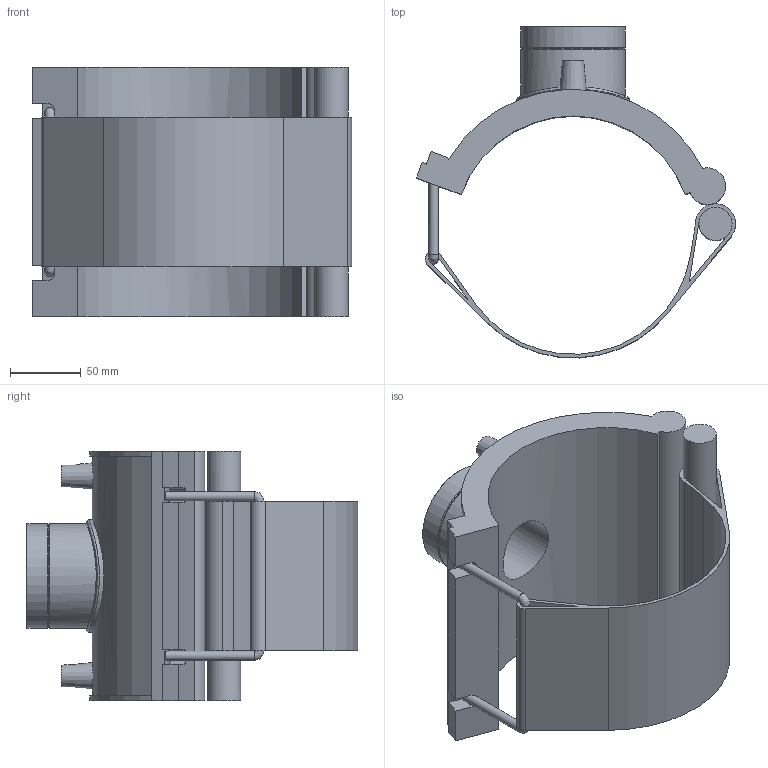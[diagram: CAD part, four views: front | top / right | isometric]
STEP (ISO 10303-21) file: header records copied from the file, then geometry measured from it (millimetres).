
FILE_DESCRIPTION(/* description */ ('PLASSON TRANSITION SADDLE 6''''IPS x 2"NPT'),/* implementation_level */ '2;1');
FILE_NAME(/* name */ 'C:\Dropbox\KIMPROJECTS-Inventor 2019\99-16-3568-Processing Inch\ASTM ElectroFusion 2021\5938B\5938B00306055.ipt.stp',/* time_stamp */ '2021-08-30T09:51:18+03:00',/* author */ ('KIM'),/* organization */ (''),/* preprocessor_version */ 'ST-DEVELOPER v17.2',/* originating_system */ 'Autodesk Inventor 2019',/* authorisation */ '');
FILE_SCHEMA (('AUTOMOTIVE_DESIGN { 1 0 10303 214 3 1 1 }'));
Length unit declared in the file: inch
Products named in the file (1): 5938B00306055
Bounding box: 225.14 x 233.93 x 176.02 mm (x, y, z)
Volume: 1081743.1 mm3; surface area: 230747.5 mm2
Topology: 1 solids, 1 shells, 78 faces, 196 edges, 128 vertices
Faces by surface type: plane 42, cylinder 28, cone 5, torus 2, bspline 1
Full cylindrical faces by diameter (mm): 4 x2, 6.72 x2, 10 x2, 23.391 x1, 45.325 x1, 56.656 x1, 72.653 x1, 73.653 x2, 79.318 x1
Entity records: 2820 total; most frequent: CARTESIAN_POINT 829, DIRECTION 414, ORIENTED_EDGE 394, EDGE_CURVE 197, AXIS2_PLACEMENT_3D 150, VERTEX_POINT 128, LINE 114, VECTOR 114
